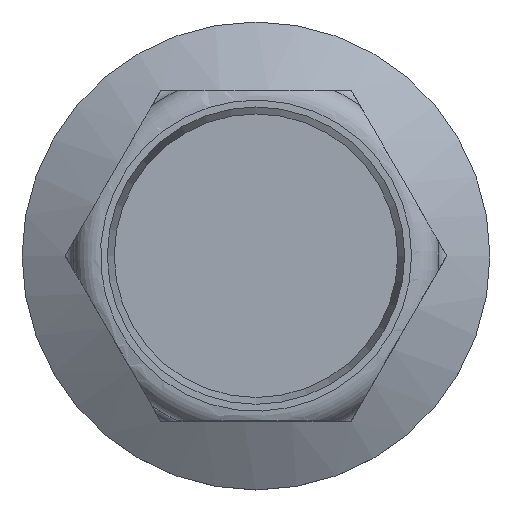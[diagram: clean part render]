
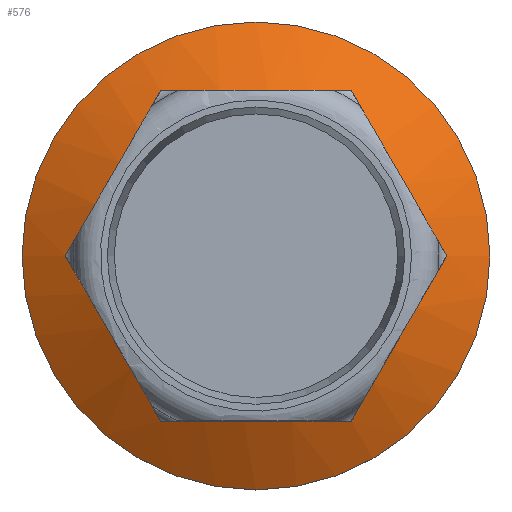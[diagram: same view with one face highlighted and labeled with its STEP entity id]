
A CAD part, top view. The second image highlights one B-rep face of the part: STEP entity #576.
In plain terms, the highlighted conical face has half-angle 60 degrees and reference radius 13.494 mm.
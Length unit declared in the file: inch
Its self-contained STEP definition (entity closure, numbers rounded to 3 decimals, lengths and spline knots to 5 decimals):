
#24=CONICAL_SURFACE('',#629,0.53125,60.);
#27=(
BOUNDED_CURVE()
B_SPLINE_CURVE(2,(#1122,#1123,#1124),.UNSPECIFIED.,.F.,.F.)
B_SPLINE_CURVE_WITH_KNOTS((3,3),(0.,1.11294),.UNSPECIFIED.)
CURVE()
GEOMETRIC_REPRESENTATION_ITEM()
RATIONAL_B_SPLINE_CURVE((1.,1.155,1.))
REPRESENTATION_ITEM('')
);
#28=(
BOUNDED_CURVE()
B_SPLINE_CURVE(2,(#1126,#1127,#1128),.UNSPECIFIED.,.F.,.F.)
B_SPLINE_CURVE_WITH_KNOTS((3,3),(0.,1.11294),.UNSPECIFIED.)
CURVE()
GEOMETRIC_REPRESENTATION_ITEM()
RATIONAL_B_SPLINE_CURVE((1.,1.155,1.))
REPRESENTATION_ITEM('')
);
#29=(
BOUNDED_CURVE()
B_SPLINE_CURVE(2,(#1130,#1131,#1132),.UNSPECIFIED.,.F.,.F.)
B_SPLINE_CURVE_WITH_KNOTS((3,3),(0.,1.11294),.UNSPECIFIED.)
CURVE()
GEOMETRIC_REPRESENTATION_ITEM()
RATIONAL_B_SPLINE_CURVE((1.,1.155,1.))
REPRESENTATION_ITEM('')
);
#30=(
BOUNDED_CURVE()
B_SPLINE_CURVE(2,(#1136,#1137,#1138),.UNSPECIFIED.,.F.,.F.)
B_SPLINE_CURVE_WITH_KNOTS((3,3),(0.,1.11294),.UNSPECIFIED.)
CURVE()
GEOMETRIC_REPRESENTATION_ITEM()
RATIONAL_B_SPLINE_CURVE((1.,1.155,1.))
REPRESENTATION_ITEM('')
);
#31=(
BOUNDED_CURVE()
B_SPLINE_CURVE(2,(#1139,#1140,#1141),.UNSPECIFIED.,.F.,.F.)
B_SPLINE_CURVE_WITH_KNOTS((3,3),(0.,1.11294),.UNSPECIFIED.)
CURVE()
GEOMETRIC_REPRESENTATION_ITEM()
RATIONAL_B_SPLINE_CURVE((1.,1.155,1.))
REPRESENTATION_ITEM('')
);
#32=(
BOUNDED_CURVE()
B_SPLINE_CURVE(2,(#1142,#1143,#1144),.UNSPECIFIED.,.F.,.F.)
B_SPLINE_CURVE_WITH_KNOTS((3,3),(0.,1.11294),.UNSPECIFIED.)
CURVE()
GEOMETRIC_REPRESENTATION_ITEM()
RATIONAL_B_SPLINE_CURVE((1.,1.155,1.))
REPRESENTATION_ITEM('')
);
#93=FACE_BOUND('',#156,.T.);
#116=FACE_OUTER_BOUND('',#155,.T.);
#155=EDGE_LOOP('',(#456));
#156=EDGE_LOOP('',(#457,#458,#459,#460,#461,#462));
#197=CIRCLE('',#630,0.53125);
#268=VERTEX_POINT('',#990);
#269=VERTEX_POINT('',#1012);
#270=VERTEX_POINT('',#1034);
#271=VERTEX_POINT('',#1056);
#272=VERTEX_POINT('',#1078);
#273=VERTEX_POINT('',#1100);
#274=VERTEX_POINT('',#1134);
#341=EDGE_CURVE('',#273,#270,#27,.T.);
#342=EDGE_CURVE('',#270,#269,#28,.T.);
#343=EDGE_CURVE('',#269,#268,#29,.T.);
#344=EDGE_CURVE('',#274,#274,#197,.T.);
#345=EDGE_CURVE('',#272,#273,#30,.T.);
#346=EDGE_CURVE('',#268,#271,#31,.T.);
#347=EDGE_CURVE('',#271,#272,#32,.T.);
#456=ORIENTED_EDGE('',*,*,#344,.T.);
#457=ORIENTED_EDGE('',*,*,#345,.T.);
#458=ORIENTED_EDGE('',*,*,#341,.T.);
#459=ORIENTED_EDGE('',*,*,#342,.T.);
#460=ORIENTED_EDGE('',*,*,#343,.T.);
#461=ORIENTED_EDGE('',*,*,#346,.T.);
#462=ORIENTED_EDGE('',*,*,#347,.T.);
#576=ADVANCED_FACE('',(#116,#93),#24,.T.);
#629=AXIS2_PLACEMENT_3D('',#1133,#729,#730);
#630=AXIS2_PLACEMENT_3D('',#1135,#731,#732);
#729=DIRECTION('center_axis',(0.,0.,-1.));
#730=DIRECTION('ref_axis',(1.,0.,0.));
#731=DIRECTION('center_axis',(0.,0.,1.));
#732=DIRECTION('ref_axis',(1.,0.,0.));
#990=CARTESIAN_POINT('',(-0.21651,-0.375,-0.38078));
#1012=CARTESIAN_POINT('',(0.21651,-0.375,-0.38078));
#1034=CARTESIAN_POINT('',(0.43301,0.,-0.38078));
#1056=CARTESIAN_POINT('',(-0.43301,0.,-0.38078));
#1078=CARTESIAN_POINT('',(-0.21651,0.375,-0.38078));
#1100=CARTESIAN_POINT('',(0.21651,0.375,-0.38078));
#1122=CARTESIAN_POINT('Ctrl Pts',(0.21651,0.375,-0.38078));
#1123=CARTESIAN_POINT('Ctrl Pts',(0.32476,0.1875,-0.31828));
#1124=CARTESIAN_POINT('Ctrl Pts',(0.43301,0.,
-0.38078));
#1126=CARTESIAN_POINT('Ctrl Pts',(0.43301,0.,
-0.38078));
#1127=CARTESIAN_POINT('Ctrl Pts',(0.32476,-0.1875,-0.31828));
#1128=CARTESIAN_POINT('Ctrl Pts',(0.21651,-0.375,-0.38078));
#1130=CARTESIAN_POINT('Ctrl Pts',(0.21651,-0.375,-0.38078));
#1131=CARTESIAN_POINT('Ctrl Pts',(0.,-0.375,-0.31828));
#1132=CARTESIAN_POINT('Ctrl Pts',(-0.21651,-0.375,-0.38078));
#1133=CARTESIAN_POINT('Origin',(0.,0.,-0.4375));
#1134=CARTESIAN_POINT('',(0.53125,0.,-0.4375));
#1135=CARTESIAN_POINT('Origin',(0.,0.,-0.4375));
#1136=CARTESIAN_POINT('Ctrl Pts',(-0.21651,0.375,-0.38078));
#1137=CARTESIAN_POINT('Ctrl Pts',(0.,0.375,-0.31828));
#1138=CARTESIAN_POINT('Ctrl Pts',(0.21651,0.375,-0.38078));
#1139=CARTESIAN_POINT('Ctrl Pts',(-0.21651,-0.375,
-0.38078));
#1140=CARTESIAN_POINT('Ctrl Pts',(-0.32476,-0.1875,-0.31828));
#1141=CARTESIAN_POINT('Ctrl Pts',(-0.43301,0.,
-0.38078));
#1142=CARTESIAN_POINT('Ctrl Pts',(-0.43301,0.,
-0.38078));
#1143=CARTESIAN_POINT('Ctrl Pts',(-0.32476,0.1875,-0.31828));
#1144=CARTESIAN_POINT('Ctrl Pts',(-0.21651,0.375,
-0.38078));
